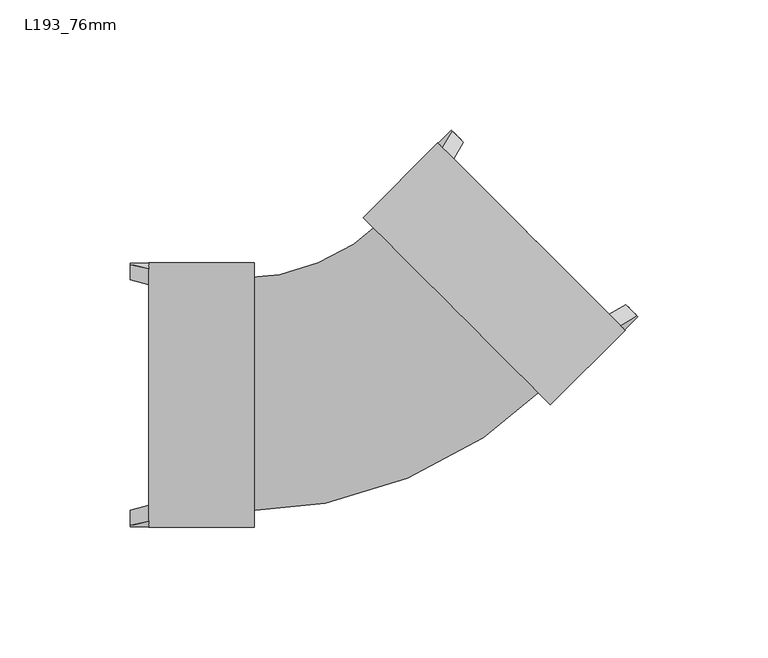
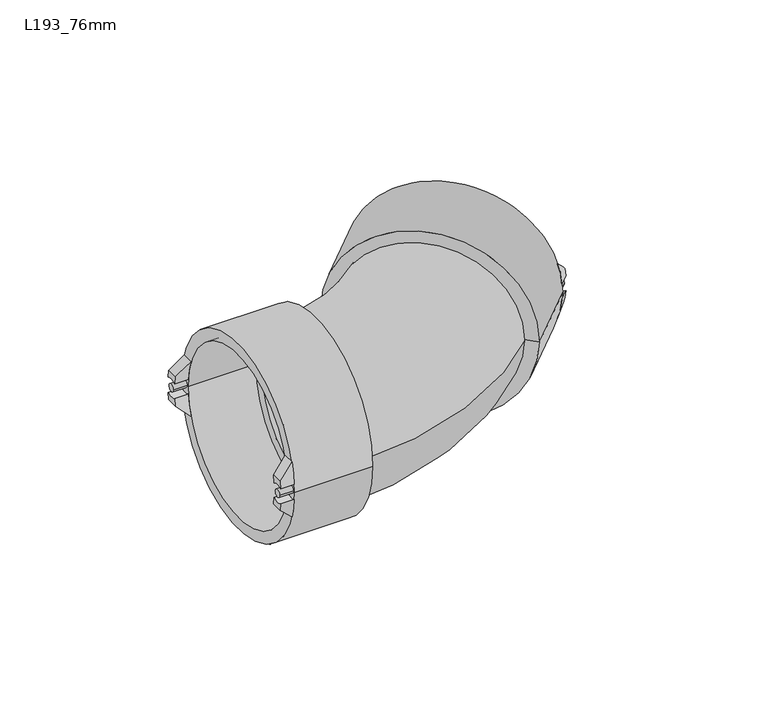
"""IFC4 building model written with IfcOpenShell, lengths in millimetres: pipe fitting geometry, Durapipe_PipeFitting_VulcatheneEnfusion_DoubleSocketSlowBend_L19 : L193_76mm."""

from ifc_helpers import new_model, si_unit, point, frame, frame_2d, origin, place, context, project, spatial, polyline, circle_curve, ellipse_curve, trimmed, segment, composite_curve, outline, extrude, source, transform, mapped, element, save
from ifc_brep_helpers import plane_surface, cylinder_surface, revolved_surface, advanced_brep


def l193_76mm_1ed979b7(model_context):
    return source(origin(), model_context, "Body", "SolidModel", [
        advanced_brep(
        [(34.2041589, 97.3859639, 3.9436356), (30.1029396, 101.4871832, 4.1913461), (30.422905, 101.1672178, 7.94), (34.5822523, 97.0078705, 7.94), (26.5662527, 94.9829538, 15.0), (25.0824815, 96.4667251, 4.1913461), (29.1837008, 92.3655057, 3.9436356), (30.8871268, 90.6620797, 15.0)],
        [
            (0, 1, circle_curve(frame((32.0307126, 99.5594102, 0.0), z_axis=(-0.7071067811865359, -0.7071067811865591, 0.0), x_axis=(0.7071067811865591, -0.7071067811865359, 0.0)), 5.0)),
            (1, 2, circle_curve(frame((65.7950614, 65.7950614, 0.0), z_axis=(0.7071067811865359, 0.7071067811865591, 0.0), x_axis=(0.7071067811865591, -0.7071067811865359, 0.0)), 50.65)),
            (2, 3),
            (3, 0, circle_curve(frame((65.7950614, 65.7950614, 0.0), z_axis=(-0.7071067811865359, -0.7071067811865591, 0.0), x_axis=(0.7071067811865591, -0.7071067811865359, 0.0)), 44.85)),
            (4, 5, circle_curve(frame((60.7746033, 60.7746033, 0.0), z_axis=(-0.7071067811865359, -0.7071067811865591, 0.0), x_axis=(0.7071067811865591, -0.7071067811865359, 0.0)), 50.65)),
            (5, 6, circle_curve(frame((27.0102545, 94.5389521, 0.0), z_axis=(0.7071067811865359, 0.7071067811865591, 0.0), x_axis=(0.7071067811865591, -0.7071067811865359, 0.0)), 5.0)),
            (6, 7, circle_curve(frame((60.7746033, 60.7746033, 0.0), z_axis=(0.7071067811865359, 0.7071067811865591, 0.0), x_axis=(0.7071067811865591, -0.7071067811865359, 0.0)), 44.85)),
            (7, 4),
            (6, 0),
            (3, 7, ellipse_curve(frame((71.441299, 71.441299, 0.0), z_axis=(0.49858558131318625, 0.49858558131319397, 0.7091014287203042), x_axis=(-0.5014104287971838, -0.5014104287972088, 0.705106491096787)), 63.6074133, 44.85)),
            (4, 2, ellipse_curve(frame((71.441299, 71.441299, 0.0), z_axis=(-0.49858558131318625, -0.49858558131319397, -0.7091014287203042), x_axis=(0.5014104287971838, 0.5014104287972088, -0.705106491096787)), 71.8331212, 50.65)),
            (1, 5),
        ],
        [
            plane_surface(frame((31.5867108, 100.003412, 15.0), z_axis=(0.7071067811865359, 0.7071067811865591, 0.0), x_axis=(0.7071067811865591, -0.7071067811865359, 0.0))),
            plane_surface(frame((26.5662527, 94.9829538, 15.0), z_axis=(-0.7071067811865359, -0.7071067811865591, 0.0), x_axis=(-0.7071067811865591, 0.7071067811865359, 0.0))),
            revolved_surface(polyline([(71.26161775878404, 7.834139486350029, 0.0), (135.04845851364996, 71.62098024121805, 0.0)]), (60.7746033, 60.7746033, 0.0), (-0.7071067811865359, -0.7071067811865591, 0.0)),
            cylinder_surface(frame((60.7746033, 60.7746033, 0.0), z_axis=(0.7071067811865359, 0.7071067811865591, 0.0), x_axis=(0.7071067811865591, -0.7071067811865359, 0.0)), 50.65),
            revolved_surface(polyline([(35.566246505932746, 96.02387629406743, 0.0), (30.545788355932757, 91.00341814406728, 0.0)]), (27.0102545, 94.5389521, 0.0), (0.7071067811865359, 0.7071067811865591, 0.0)),
            plane_surface(frame((96.5895617, 24.9596448, 15.0), z_axis=(0.49858558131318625, 0.49858558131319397, 0.7091014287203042), x_axis=(-0.7071067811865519, 0.7071067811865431, 0.0))),
        ],
        [
            (0, [[1, 2, 3, 4]]),
            (1, [[5, 6, 7, 8]]),
            (2, [[-7, 9, -4, 10]]),
            (3, [[-5, 11, -2, 12]]),
            (4, [[-1, -9, -6, -12]]),
            (5, [[-3, -11, -8, -10]]),
        ],
    ),
        advanced_brep(
        [(30.1029396, 101.4871832, -4.1913461), (34.2041589, 97.3859639, -3.9436356), (34.5822523, 97.0078705, -7.94), (30.422905, 101.1672178, -7.94), (25.0824815, 96.4667251, -4.1913461), (26.5662527, 94.9829538, -15.0), (30.8871268, 90.6620797, -15.0), (29.1837008, 92.3655057, -3.9436356)],
        [
            (0, 1, circle_curve(frame((32.0307126, 99.5594102, 0.0), z_axis=(-0.7071067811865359, -0.7071067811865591, 0.0), x_axis=(0.7071067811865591, -0.7071067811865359, 0.0)), 5.0)),
            (1, 2, circle_curve(frame((65.7950614, 65.7950614, 0.0), z_axis=(-0.7071067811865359, -0.7071067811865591, 0.0), x_axis=(0.7071067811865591, -0.7071067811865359, 0.0)), 44.85)),
            (2, 3),
            (3, 0, circle_curve(frame((65.7950614, 65.7950614, 0.0), z_axis=(0.7071067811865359, 0.7071067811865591, 0.0), x_axis=(0.7071067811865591, -0.7071067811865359, 0.0)), 50.65)),
            (4, 5, circle_curve(frame((60.7746033, 60.7746033, 0.0), z_axis=(-0.7071067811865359, -0.7071067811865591, 0.0), x_axis=(0.7071067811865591, -0.7071067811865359, 0.0)), 50.65)),
            (5, 6),
            (6, 7, circle_curve(frame((60.7746033, 60.7746033, 0.0), z_axis=(0.7071067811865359, 0.7071067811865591, 0.0), x_axis=(0.7071067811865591, -0.7071067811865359, 0.0)), 44.85)),
            (7, 4, circle_curve(frame((27.0102545, 94.5389521, 0.0), z_axis=(0.7071067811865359, 0.7071067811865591, 0.0), x_axis=(0.7071067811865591, -0.7071067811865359, 0.0)), 5.0)),
            (6, 2, ellipse_curve(frame((71.441299, 71.441299, 0.0), z_axis=(0.49858558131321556, 0.4985855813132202, -0.7091014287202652), x_axis=(-0.5014104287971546, -0.5014104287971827, -0.7051064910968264)), 63.6074133, 44.85)),
            (1, 7),
            (4, 0),
            (3, 5, ellipse_curve(frame((71.441299, 71.441299, 0.0), z_axis=(-0.49858558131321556, -0.4985855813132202, 0.7091014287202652), x_axis=(0.5014104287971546, 0.5014104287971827, 0.7051064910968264)), 71.8331212, 50.65)),
        ],
        [
            plane_surface(frame((31.5867108, 100.003412, 15.0), z_axis=(0.7071067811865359, 0.7071067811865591, 0.0), x_axis=(0.7071067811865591, -0.7071067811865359, 0.0))),
            plane_surface(frame((26.5662527, 94.9829538, 15.0), z_axis=(-0.7071067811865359, -0.7071067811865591, 0.0), x_axis=(-0.7071067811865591, 0.7071067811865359, 0.0))),
            revolved_surface(polyline([(71.2616177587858, 7.834139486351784, 0.0), (135.0484585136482, 71.62098024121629, 0.0)]), (60.7746033, 60.7746033, 0.0), (-0.7071067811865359, -0.7071067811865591, 0.0)),
            cylinder_surface(frame((60.7746033, 60.7746033, 0.0), z_axis=(0.7071067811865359, 0.7071067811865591, 0.0), x_axis=(0.7071067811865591, -0.7071067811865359, 0.0)), 50.65),
            revolved_surface(polyline([(35.566246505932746, 96.02387629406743, 0.0), (30.545788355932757, 91.00341814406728, 0.0)]), (27.0102545, 94.5389521, 0.0), (0.7071067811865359, 0.7071067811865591, 0.0)),
            plane_surface(frame((101.6100199, 29.9801029, -7.94), z_axis=(0.49858558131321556, 0.4985855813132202, -0.7091014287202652), x_axis=(-0.7071067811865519, 0.7071067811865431, 0.0))),
        ],
        [
            (0, [[1, 2, 3, 4]]),
            (1, [[5, 6, 7, 8]]),
            (2, [[-7, 9, -2, 10]]),
            (3, [[-5, 11, -4, 12]]),
            (4, [[-1, -11, -8, -10]]),
            (5, [[-3, -9, -6, -12]]),
        ],
    ),
        advanced_brep(
        [(101.4871832, 30.1029396, 4.1913461), (97.3859639, 34.2041589, 3.9436356), (97.0078705, 34.5822523, 7.94), (101.1672178, 30.422905, 7.94), (96.4667251, 25.0824815, 4.1913461), (94.9829538, 26.5662527, 15.0), (90.6620797, 30.8871268, 15.0), (92.3655057, 29.1837008, 3.9436356)],
        [
            (0, 1, circle_curve(frame((99.5594102, 32.0307126, 0.0), z_axis=(-0.7071067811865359, -0.7071067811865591, 0.0), x_axis=(0.7071067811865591, -0.7071067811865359, 0.0)), 5.0)),
            (1, 2, circle_curve(frame((65.7950614, 65.7950614, 0.0), z_axis=(-0.7071067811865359, -0.7071067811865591, 0.0), x_axis=(0.7071067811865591, -0.7071067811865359, 0.0)), 44.85)),
            (2, 3),
            (3, 0, circle_curve(frame((65.7950614, 65.7950614, 0.0), z_axis=(0.7071067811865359, 0.7071067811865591, 0.0), x_axis=(0.7071067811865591, -0.7071067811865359, 0.0)), 50.65)),
            (4, 5, circle_curve(frame((60.7746033, 60.7746033, 0.0), z_axis=(-0.7071067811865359, -0.7071067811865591, 0.0), x_axis=(0.7071067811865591, -0.7071067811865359, 0.0)), 50.65)),
            (5, 6),
            (6, 7, circle_curve(frame((60.7746033, 60.7746033, 0.0), z_axis=(0.7071067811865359, 0.7071067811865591, 0.0), x_axis=(0.7071067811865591, -0.7071067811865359, 0.0)), 44.85)),
            (7, 4, circle_curve(frame((94.5389521, 27.0102545, 0.0), z_axis=(0.7071067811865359, 0.7071067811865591, 0.0), x_axis=(0.7071067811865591, -0.7071067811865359, 0.0)), 5.0)),
            (6, 2, ellipse_curve(frame((71.441299, 71.441299, 0.0), z_axis=(0.49858558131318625, 0.49858558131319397, 0.7091014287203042), x_axis=(-0.5014104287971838, -0.5014104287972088, 0.705106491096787)), 63.6074133, 44.85)),
            (1, 7),
            (4, 0),
            (3, 5, ellipse_curve(frame((71.441299, 71.441299, 0.0), z_axis=(-0.49858558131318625, -0.49858558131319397, -0.7091014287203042), x_axis=(0.5014104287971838, 0.5014104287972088, -0.705106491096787)), 71.8331212, 50.65)),
        ],
        [
            plane_surface(frame((31.5867108, 100.003412, 15.0), z_axis=(0.7071067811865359, 0.7071067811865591, 0.0), x_axis=(0.7071067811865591, -0.7071067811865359, 0.0))),
            plane_surface(frame((26.5662527, 94.9829538, 15.0), z_axis=(-0.7071067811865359, -0.7071067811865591, 0.0), x_axis=(-0.7071067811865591, 0.7071067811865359, 0.0))),
            revolved_surface(polyline([(71.26161775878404, 7.834139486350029, 0.0), (135.04845851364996, 71.62098024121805, 0.0)]), (60.7746033, 60.7746033, 0.0), (-0.7071067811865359, -0.7071067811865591, 0.0)),
            cylinder_surface(frame((60.7746033, 60.7746033, 0.0), z_axis=(0.7071067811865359, 0.7071067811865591, 0.0), x_axis=(0.7071067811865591, -0.7071067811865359, 0.0)), 50.65),
            revolved_surface(polyline([(103.09494410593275, 28.495178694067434, 0.0), (98.07448595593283, 23.474720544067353, 0.0)]), (94.5389521, 27.0102545, 0.0), (0.7071067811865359, 0.7071067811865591, 0.0)),
            plane_surface(frame((96.5895617, 24.9596448, 15.0), z_axis=(0.49858558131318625, 0.49858558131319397, 0.7091014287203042), x_axis=(-0.7071067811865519, 0.7071067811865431, 0.0))),
        ],
        [
            (0, [[1, 2, 3, 4]]),
            (1, [[5, 6, 7, 8]]),
            (2, [[-7, 9, -2, 10]]),
            (3, [[-5, 11, -4, 12]]),
            (4, [[-1, -11, -8, -10]]),
            (5, [[-3, -9, -6, -12]]),
        ],
    ),
        advanced_brep(
        [(97.3859639, 34.2041589, -3.9436356), (101.4871832, 30.1029396, -4.1913461), (101.1672178, 30.422905, -7.94), (97.0078705, 34.5822523, -7.94), (94.9829538, 26.5662527, -15.0), (96.4667251, 25.0824815, -4.1913461), (92.3655057, 29.1837008, -3.9436356), (90.6620797, 30.8871268, -15.0)],
        [
            (0, 1, circle_curve(frame((99.5594102, 32.0307126, 0.0), z_axis=(-0.7071067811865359, -0.7071067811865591, 0.0), x_axis=(0.7071067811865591, -0.7071067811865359, 0.0)), 5.0)),
            (1, 2, circle_curve(frame((65.7950614, 65.7950614, 0.0), z_axis=(0.7071067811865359, 0.7071067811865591, 0.0), x_axis=(0.7071067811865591, -0.7071067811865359, 0.0)), 50.65)),
            (2, 3),
            (3, 0, circle_curve(frame((65.7950614, 65.7950614, 0.0), z_axis=(-0.7071067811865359, -0.7071067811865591, 0.0), x_axis=(0.7071067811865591, -0.7071067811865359, 0.0)), 44.85)),
            (4, 5, circle_curve(frame((60.7746033, 60.7746033, 0.0), z_axis=(-0.7071067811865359, -0.7071067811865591, 0.0), x_axis=(0.7071067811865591, -0.7071067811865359, 0.0)), 50.65)),
            (5, 6, circle_curve(frame((94.5389521, 27.0102545, 0.0), z_axis=(0.7071067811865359, 0.7071067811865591, 0.0), x_axis=(0.7071067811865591, -0.7071067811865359, 0.0)), 5.0)),
            (6, 7, circle_curve(frame((60.7746033, 60.7746033, 0.0), z_axis=(0.7071067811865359, 0.7071067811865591, 0.0), x_axis=(0.7071067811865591, -0.7071067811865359, 0.0)), 44.85)),
            (7, 4),
            (6, 0),
            (3, 7, ellipse_curve(frame((71.441299, 71.441299, 0.0), z_axis=(0.49858558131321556, 0.4985855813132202, -0.7091014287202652), x_axis=(-0.5014104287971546, -0.5014104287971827, -0.7051064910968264)), 63.6074133, 44.85)),
            (4, 2, ellipse_curve(frame((71.441299, 71.441299, 0.0), z_axis=(-0.49858558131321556, -0.4985855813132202, 0.7091014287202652), x_axis=(0.5014104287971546, 0.5014104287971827, 0.7051064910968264)), 71.8331212, 50.65)),
            (1, 5),
        ],
        [
            plane_surface(frame((31.5867108, 100.003412, 15.0), z_axis=(0.7071067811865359, 0.7071067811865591, 0.0), x_axis=(0.7071067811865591, -0.7071067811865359, 0.0))),
            plane_surface(frame((26.5662527, 94.9829538, 15.0), z_axis=(-0.7071067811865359, -0.7071067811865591, 0.0), x_axis=(-0.7071067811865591, 0.7071067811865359, 0.0))),
            revolved_surface(polyline([(71.2616177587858, 7.834139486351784, 0.0), (135.0484585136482, 71.62098024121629, 0.0)]), (60.7746033, 60.7746033, 0.0), (-0.7071067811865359, -0.7071067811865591, 0.0)),
            cylinder_surface(frame((60.7746033, 60.7746033, 0.0), z_axis=(0.7071067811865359, 0.7071067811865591, 0.0), x_axis=(0.7071067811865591, -0.7071067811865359, 0.0)), 50.65),
            revolved_surface(polyline([(103.09494410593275, 28.495178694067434, 0.0), (98.07448595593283, 23.474720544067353, 0.0)]), (94.5389521, 27.0102545, 0.0), (0.7071067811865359, 0.7071067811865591, 0.0)),
            plane_surface(frame((101.6100199, 29.9801029, -7.94), z_axis=(0.49858558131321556, 0.4985855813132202, -0.7091014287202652), x_axis=(-0.7071067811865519, 0.7071067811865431, 0.0))),
        ],
        [
            (0, [[1, 2, 3, 4]]),
            (1, [[5, 6, 7, 8]]),
            (2, [[-7, 9, -4, 10]]),
            (3, [[-5, 11, -2, 12]]),
            (4, [[-1, -9, -6, -12]]),
            (5, [[-3, -11, -8, -10]]),
        ],
    ),
        extrude(outline(composite_curve([segment(trimmed(circle_curve(frame_2d((0.0, -2.0)), 2.0), [point((0.0, -4.0))], [point((0.0, 0.0))], False, "CARTESIAN"), True, "CONTINUOUS"), segment(trimmed(circle_curve(frame_2d((0.0, -2.0)), 2.0), [point((0.0, 0.0))], [point((0.0, -4.0))], False, "CARTESIAN"), True, "CONTINUOUS")], self_intersect=False)), frame((28.424468, 93.1247385, 0.0), z_axis=(0.7071067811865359, 0.7071067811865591, 0.0), x_axis=(0.0, 0.0, 1.0)), (0.0, 0.0, 1.0), 7.1),
        extrude(outline(composite_curve([segment(trimmed(circle_curve(frame_2d((0.0, 93.5)), 2.0), [point((0.0, 91.5))], [point((0.0, 95.5))], False, "CARTESIAN"), True, "CONTINUOUS"), segment(trimmed(circle_curve(frame_2d((0.0, 93.5)), 2.0), [point((0.0, 95.5))], [point((0.0, 91.5))], False, "CARTESIAN"), True, "CONTINUOUS")], self_intersect=False)), frame((28.424468, 93.1247385, 0.0), z_axis=(0.7071067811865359, 0.7071067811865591, 0.0), x_axis=(0.0, 0.0, 1.0)), (0.0, 0.0, 1.0), 7.1),
        advanced_brep(
        [(8.2365694, 63.8151624, 0.0), (63.8151624, 8.2365694, 0.0), (67.633539, 4.4181928, 0.0), (4.4181928, 67.633539, 0.0), (4.3474821, 59.9260751, 0.0), (59.9260751, 4.3474821, 0.0), (-3.7842459, 68.0578031, 0.0), (68.0578031, -3.7842459, 0.0), (24.8535788, 96.6956277, 0.0), (96.6956277, 24.8535788, 0.0), (29.1669301, 92.3822764, 0.0), (92.3822764, 29.1669301, 0.0)],
        [
            (0, 1, circle_curve(frame((36.0258659, 36.0258659, 0.0), z_axis=(-0.7071067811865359, -0.7071067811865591, 0.0), x_axis=(0.7071067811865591, -0.7071067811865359, 0.0)), 39.3)),
            (1, 2),
            (2, 3, circle_curve(frame((36.0258659, 36.0258659, 0.0), z_axis=(0.7071067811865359, 0.7071067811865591, 0.0), x_axis=(0.7071067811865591, -0.7071067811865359, 0.0)), 44.7)),
            (3, 0),
            (1, 0, circle_curve(frame((36.0258659, 36.0258659, 0.0), z_axis=(-0.7071067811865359, -0.7071067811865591, 0.0), x_axis=(0.7071067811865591, -0.7071067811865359, 0.0)), 39.3)),
            (3, 2, circle_curve(frame((36.0258659, 36.0258659, 0.0), z_axis=(0.7071067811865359, 0.7071067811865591, 0.0), x_axis=(0.7071067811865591, -0.7071067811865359, 0.0)), 44.7)),
            (4, 5, circle_curve(frame((32.1367786, 32.1367786, 0.0), z_axis=(-0.7071067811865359, -0.7071067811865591, 0.0), x_axis=(0.7071067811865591, -0.7071067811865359, 0.0)), 39.3)),
            (5, 1),
            (0, 4),
            (5, 4, circle_curve(frame((32.1367786, 32.1367786, 0.0), z_axis=(-0.7071067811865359, -0.7071067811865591, 0.0), x_axis=(0.7071067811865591, -0.7071067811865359, 0.0)), 39.3)),
            (6, 7, circle_curve(frame((32.1367786, 32.1367786, 0.0), z_axis=(-0.7071067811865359, -0.7071067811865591, 0.0), x_axis=(0.7071067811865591, -0.7071067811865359, 0.0)), 50.8)),
            (7, 5),
            (4, 6),
            (7, 6, circle_curve(frame((32.1367786, 32.1367786, 0.0), z_axis=(-0.7071067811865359, -0.7071067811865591, 0.0), x_axis=(0.7071067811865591, -0.7071067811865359, 0.0)), 50.8)),
            (8, 9, circle_curve(frame((60.7746033, 60.7746033, 0.0), z_axis=(-0.7071067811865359, -0.7071067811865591, 0.0), x_axis=(0.7071067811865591, -0.7071067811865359, 0.0)), 50.8)),
            (9, 7),
            (6, 8),
            (9, 8, circle_curve(frame((60.7746033, 60.7746033, 0.0), z_axis=(-0.7071067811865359, -0.7071067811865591, 0.0), x_axis=(0.7071067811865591, -0.7071067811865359, 0.0)), 50.8)),
            (10, 11, circle_curve(frame((60.7746033, 60.7746033, 0.0), z_axis=(-0.7071067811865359, -0.7071067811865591, 0.0), x_axis=(0.7071067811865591, -0.7071067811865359, 0.0)), 44.7)),
            (11, 9),
            (8, 10),
            (11, 10, circle_curve(frame((60.7746033, 60.7746033, 0.0), z_axis=(-0.7071067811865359, -0.7071067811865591, 0.0), x_axis=(0.7071067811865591, -0.7071067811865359, 0.0)), 44.7)),
            (2, 11),
            (10, 3),
        ],
        [
            plane_surface(frame((36.0258659, 36.0258659, 0.0), z_axis=(0.7071067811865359, 0.7071067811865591, 0.0), x_axis=(0.7071067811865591, -0.7071067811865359, 0.0))),
            revolved_surface(polyline([(63.81516240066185, 8.23656939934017, 0.0), (59.92607510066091, 4.347482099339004, 0.0)]), (1838.4287645, 1838.4287645, 0.0), (0.7071067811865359, 0.7071067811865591, 0.0)),
            plane_surface(frame((32.1367786, 32.1367786, 0.0), z_axis=(-0.7071067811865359, -0.7071067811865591, 0.0), x_axis=(0.7071067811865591, -0.7071067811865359, 0.0))),
            cylinder_surface(frame((1838.4287645, 1838.4287645, 0.0), z_axis=(0.7071067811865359, 0.7071067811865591, 0.0), x_axis=(0.7071067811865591, -0.7071067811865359, 0.0)), 50.8),
            plane_surface(frame((60.7746033, 60.7746033, 0.0), z_axis=(0.7071067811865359, 0.7071067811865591, 0.0), x_axis=(0.7071067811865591, -0.7071067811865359, 0.0))),
            revolved_surface(polyline([(92.3822764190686, 29.16693018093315, 0.0), (67.6335390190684, 4.418192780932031, 0.0)]), (1838.4287645, 1838.4287645, 0.0), (0.7071067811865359, 0.7071067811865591, 0.0)),
        ],
        [
            (0, [[1, 2, 3, 4]]),
            (0, [[5, -4, 6, -2]]),
            (1, [[7, 8, -1, 9]]),
            (1, [[10, -9, -5, -8]]),
            (2, [[11, 12, -7, 13]]),
            (2, [[14, -13, -10, -12]]),
            (3, [[15, 16, -11, 17]]),
            (3, [[18, -17, -14, -16]]),
            (4, [[19, 20, -15, 21]]),
            (4, [[22, -21, -18, -20]]),
            (5, [[-3, 23, -19, 24]]),
            (5, [[-6, -24, -22, -23]]),
        ],
    ),
        advanced_brep(
        [(-93.0482682, 44.6762827, -3.9436356), (-93.0482682, 50.4762827, -4.1913461), (-93.0482682, 50.0237833, -7.94), (-93.0482682, 44.1415779, -7.94), (-85.9482682, 48.3779133, -15.0), (-85.9482682, 50.4762827, -4.1913461), (-85.9482682, 44.6762827, -3.9436356), (-85.9482682, 42.2672746, -15.0)],
        [
            (0, 1, circle_curve(frame((-93.0482682, 47.75, 0.0), z_axis=(1.0, 0.0, 0.0), x_axis=(0.0, -1.0, 0.0)), 5.0)),
            (1, 2, circle_curve(frame((-93.0482682, 0.0, 0.0), z_axis=(-1.0, 0.0, 0.0), x_axis=(0.0, -1.0, 0.0)), 50.65)),
            (2, 3),
            (3, 0, circle_curve(frame((-93.0482682, 0.0, 0.0), z_axis=(1.0, 0.0, 0.0), x_axis=(0.0, -1.0, 0.0)), 44.85)),
            (4, 5, circle_curve(frame((-85.9482682, 0.0, 0.0), z_axis=(1.0, 0.0, 0.0), x_axis=(0.0, -1.0, 0.0)), 50.65)),
            (5, 6, circle_curve(frame((-85.9482682, 47.75, 0.0), z_axis=(-1.0, 0.0, 0.0), x_axis=(0.0, -1.0, 0.0)), 5.0)),
            (6, 7, circle_curve(frame((-85.9482682, 0.0, 0.0), z_axis=(-1.0, 0.0, 0.0), x_axis=(0.0, -1.0, 0.0)), 44.85)),
            (7, 4),
            (6, 0),
            (3, 7, ellipse_curve(frame((-101.033254, 0.0, 0.0), z_axis=(-0.705106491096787, 0.0, -0.7091014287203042), x_axis=(0.7091014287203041, 0.0, -0.705106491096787)), 63.6074133, 44.85)),
            (4, 2, ellipse_curve(frame((-101.033254, 0.0, 0.0), z_axis=(0.705106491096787, 0.0, 0.7091014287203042), x_axis=(-0.7091014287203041, 0.0, 0.705106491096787)), 71.8331212, 50.65)),
            (1, 5),
        ],
        [
            plane_surface(frame((-93.0482682, 48.3779133, -15.0), z_axis=(-1.0, 0.0, 0.0), x_axis=(0.0, -1.0, 0.0))),
            plane_surface(frame((-85.9482682, 48.3779133, -15.0), z_axis=(1.0, 0.0, 0.0), x_axis=(0.0, 1.0, 0.0))),
            revolved_surface(polyline([(-55.92914635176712, -44.85, 0.0), (-146.13736164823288, -44.85, 0.0)]), (-85.9482682, 0.0, 0.0), (1.0, 0.0, 0.0)),
            cylinder_surface(frame((-85.9482682, 0.0, 0.0), z_axis=(-1.0, 0.0, 0.0), x_axis=(0.0, -1.0, 0.0)), 50.65),
            revolved_surface(polyline([(-93.0482682, 42.75, 0.0), (-85.9482682, 42.75, 0.0)]), (-85.9482682, 47.75, 0.0), (-1.0, 0.0, 0.0)),
            plane_surface(frame((-85.9482682, -50.65, -15.0), z_axis=(-0.705106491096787, 0.0, -0.7091014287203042), x_axis=(0.0, 1.0, 0.0))),
        ],
        [
            (0, [[1, 2, 3, 4]]),
            (1, [[5, 6, 7, 8]]),
            (2, [[-7, 9, -4, 10]]),
            (3, [[-5, 11, -2, 12]]),
            (4, [[-1, -9, -6, -12]]),
            (5, [[-3, -11, -8, -10]]),
        ],
    ),
        advanced_brep(
        [(-93.0482682, 50.4762827, 4.1913461), (-93.0482682, 44.6762827, 3.9436356), (-93.0482682, 44.1415779, 7.94), (-93.0482682, 50.0237833, 7.94), (-85.9482682, 50.4762827, 4.1913461), (-85.9482682, 48.3779133, 15.0), (-85.9482682, 42.2672746, 15.0), (-85.9482682, 44.6762827, 3.9436356)],
        [
            (0, 1, circle_curve(frame((-93.0482682, 47.75, 0.0), z_axis=(1.0, 0.0, 0.0), x_axis=(0.0, -1.0, 0.0)), 5.0)),
            (1, 2, circle_curve(frame((-93.0482682, 0.0, 0.0), z_axis=(1.0, 0.0, 0.0), x_axis=(0.0, -1.0, 0.0)), 44.85)),
            (2, 3),
            (3, 0, circle_curve(frame((-93.0482682, 0.0, 0.0), z_axis=(-1.0, 0.0, 0.0), x_axis=(0.0, -1.0, 0.0)), 50.65)),
            (4, 5, circle_curve(frame((-85.9482682, 0.0, 0.0), z_axis=(1.0, 0.0, 0.0), x_axis=(0.0, -1.0, 0.0)), 50.65)),
            (5, 6),
            (6, 7, circle_curve(frame((-85.9482682, 0.0, 0.0), z_axis=(-1.0, 0.0, 0.0), x_axis=(0.0, -1.0, 0.0)), 44.85)),
            (7, 4, circle_curve(frame((-85.9482682, 47.75, 0.0), z_axis=(-1.0, 0.0, 0.0), x_axis=(0.0, -1.0, 0.0)), 5.0)),
            (6, 2, ellipse_curve(frame((-101.033254, 0.0, 0.0), z_axis=(-0.7051064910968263, 0.0, 0.7091014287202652), x_axis=(0.7091014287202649, 0.0, 0.7051064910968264)), 63.6074133, 44.85)),
            (1, 7),
            (4, 0),
            (3, 5, ellipse_curve(frame((-101.033254, 0.0, 0.0), z_axis=(0.7051064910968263, 0.0, -0.7091014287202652), x_axis=(-0.7091014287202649, 0.0, -0.7051064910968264)), 71.8331212, 50.65)),
        ],
        [
            plane_surface(frame((-93.0482682, 48.3779133, -15.0), z_axis=(-1.0, 0.0, 0.0), x_axis=(0.0, -1.0, 0.0))),
            plane_surface(frame((-85.9482682, 48.3779133, -15.0), z_axis=(1.0, 0.0, 0.0), x_axis=(0.0, 1.0, 0.0))),
            revolved_surface(polyline([(-55.92914635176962, -44.85, 0.0), (-146.13736164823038, -44.85, 0.0)]), (-85.9482682, 0.0, 0.0), (1.0, 0.0, 0.0)),
            cylinder_surface(frame((-85.9482682, 0.0, 0.0), z_axis=(-1.0, 0.0, 0.0), x_axis=(0.0, -1.0, 0.0)), 50.65),
            revolved_surface(polyline([(-93.0482682, 42.75, 0.0), (-85.9482682, 42.75, 0.0)]), (-85.9482682, 47.75, 0.0), (-1.0, 0.0, 0.0)),
            plane_surface(frame((-93.0482682, -50.65, 7.94), z_axis=(-0.7051064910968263, 0.0, 0.7091014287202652), x_axis=(0.0, 1.0, 0.0))),
        ],
        [
            (0, [[1, 2, 3, 4]]),
            (1, [[5, 6, 7, 8]]),
            (2, [[-7, 9, -2, 10]]),
            (3, [[-5, 11, -4, 12]]),
            (4, [[-1, -11, -8, -10]]),
            (5, [[-3, -9, -6, -12]]),
        ],
    ),
        advanced_brep(
        [(-93.0482682, -50.4762827, -4.1913461), (-93.0482682, -44.6762827, -3.9436356), (-93.0482682, -44.1415779, -7.94), (-93.0482682, -50.0237833, -7.94), (-85.9482682, -50.4762827, -4.1913461), (-85.9482682, -48.3779133, -15.0), (-85.9482682, -42.2672746, -15.0), (-85.9482682, -44.6762827, -3.9436356)],
        [
            (0, 1, circle_curve(frame((-93.0482682, -47.75, 0.0), z_axis=(1.0, 0.0, 0.0), x_axis=(0.0, -1.0, 0.0)), 5.0)),
            (1, 2, circle_curve(frame((-93.0482682, 0.0, 0.0), z_axis=(1.0, 0.0, 0.0), x_axis=(0.0, -1.0, 0.0)), 44.85)),
            (2, 3),
            (3, 0, circle_curve(frame((-93.0482682, 0.0, 0.0), z_axis=(-1.0, 0.0, 0.0), x_axis=(0.0, -1.0, 0.0)), 50.65)),
            (4, 5, circle_curve(frame((-85.9482682, 0.0, 0.0), z_axis=(1.0, 0.0, 0.0), x_axis=(0.0, -1.0, 0.0)), 50.65)),
            (5, 6),
            (6, 7, circle_curve(frame((-85.9482682, 0.0, 0.0), z_axis=(-1.0, 0.0, 0.0), x_axis=(0.0, -1.0, 0.0)), 44.85)),
            (7, 4, circle_curve(frame((-85.9482682, -47.75, 0.0), z_axis=(-1.0, 0.0, 0.0), x_axis=(0.0, -1.0, 0.0)), 5.0)),
            (6, 2, ellipse_curve(frame((-101.033254, 0.0, 0.0), z_axis=(-0.705106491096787, 0.0, -0.7091014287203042), x_axis=(0.7091014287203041, 0.0, -0.705106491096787)), 63.6074133, 44.85)),
            (1, 7),
            (4, 0),
            (3, 5, ellipse_curve(frame((-101.033254, 0.0, 0.0), z_axis=(0.705106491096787, 0.0, 0.7091014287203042), x_axis=(-0.7091014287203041, 0.0, 0.705106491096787)), 71.8331212, 50.65)),
        ],
        [
            plane_surface(frame((-93.0482682, 48.3779133, -15.0), z_axis=(-1.0, 0.0, 0.0), x_axis=(0.0, -1.0, 0.0))),
            plane_surface(frame((-85.9482682, 48.3779133, -15.0), z_axis=(1.0, 0.0, 0.0), x_axis=(0.0, 1.0, 0.0))),
            revolved_surface(polyline([(-55.92914635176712, -44.85, 0.0), (-146.13736164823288, -44.85, 0.0)]), (-85.9482682, 0.0, 0.0), (1.0, 0.0, 0.0)),
            cylinder_surface(frame((-85.9482682, 0.0, 0.0), z_axis=(-1.0, 0.0, 0.0), x_axis=(0.0, -1.0, 0.0)), 50.65),
            revolved_surface(polyline([(-93.0482682, -52.75, 0.0), (-85.9482682, -52.75, 0.0)]), (-85.9482682, -47.75, 0.0), (-1.0, 0.0, 0.0)),
            plane_surface(frame((-85.9482682, -50.65, -15.0), z_axis=(-0.705106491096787, 0.0, -0.7091014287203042), x_axis=(0.0, 1.0, 0.0))),
        ],
        [
            (0, [[1, 2, 3, 4]]),
            (1, [[5, 6, 7, 8]]),
            (2, [[-7, 9, -2, 10]]),
            (3, [[-5, 11, -4, 12]]),
            (4, [[-1, -11, -8, -10]]),
            (5, [[-3, -9, -6, -12]]),
        ],
    ),
        advanced_brep(
        [(-93.0482682, -44.6762827, 3.9436356), (-93.0482682, -50.4762827, 4.1913461), (-93.0482682, -50.0237833, 7.94), (-93.0482682, -44.1415779, 7.94), (-85.9482682, -48.3779133, 15.0), (-85.9482682, -50.4762827, 4.1913461), (-85.9482682, -44.6762827, 3.9436356), (-85.9482682, -42.2672746, 15.0)],
        [
            (0, 1, circle_curve(frame((-93.0482682, -47.75, 0.0), z_axis=(1.0, 0.0, 0.0), x_axis=(0.0, -1.0, 0.0)), 5.0)),
            (1, 2, circle_curve(frame((-93.0482682, 0.0, 0.0), z_axis=(-1.0, 0.0, 0.0), x_axis=(0.0, -1.0, 0.0)), 50.65)),
            (2, 3),
            (3, 0, circle_curve(frame((-93.0482682, 0.0, 0.0), z_axis=(1.0, 0.0, 0.0), x_axis=(0.0, -1.0, 0.0)), 44.85)),
            (4, 5, circle_curve(frame((-85.9482682, 0.0, 0.0), z_axis=(1.0, 0.0, 0.0), x_axis=(0.0, -1.0, 0.0)), 50.65)),
            (5, 6, circle_curve(frame((-85.9482682, -47.75, 0.0), z_axis=(-1.0, 0.0, 0.0), x_axis=(0.0, -1.0, 0.0)), 5.0)),
            (6, 7, circle_curve(frame((-85.9482682, 0.0, 0.0), z_axis=(-1.0, 0.0, 0.0), x_axis=(0.0, -1.0, 0.0)), 44.85)),
            (7, 4),
            (6, 0),
            (3, 7, ellipse_curve(frame((-101.033254, 0.0, 0.0), z_axis=(-0.7051064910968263, 0.0, 0.7091014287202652), x_axis=(0.7091014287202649, 0.0, 0.7051064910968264)), 63.6074133, 44.85)),
            (4, 2, ellipse_curve(frame((-101.033254, 0.0, 0.0), z_axis=(0.7051064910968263, 0.0, -0.7091014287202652), x_axis=(-0.7091014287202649, 0.0, -0.7051064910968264)), 71.8331212, 50.65)),
            (1, 5),
        ],
        [
            plane_surface(frame((-93.0482682, 48.3779133, -15.0), z_axis=(-1.0, 0.0, 0.0), x_axis=(0.0, -1.0, 0.0))),
            plane_surface(frame((-85.9482682, 48.3779133, -15.0), z_axis=(1.0, 0.0, 0.0), x_axis=(0.0, 1.0, 0.0))),
            revolved_surface(polyline([(-55.92914635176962, -44.85, 0.0), (-146.13736164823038, -44.85, 0.0)]), (-85.9482682, 0.0, 0.0), (1.0, 0.0, 0.0)),
            cylinder_surface(frame((-85.9482682, 0.0, 0.0), z_axis=(-1.0, 0.0, 0.0), x_axis=(0.0, -1.0, 0.0)), 50.65),
            revolved_surface(polyline([(-93.0482682, -52.75, 0.0), (-85.9482682, -52.75, 0.0)]), (-85.9482682, -47.75, 0.0), (-1.0, 0.0, 0.0)),
            plane_surface(frame((-93.0482682, -50.65, 7.94), z_axis=(-0.7051064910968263, 0.0, 0.7091014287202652), x_axis=(0.0, 1.0, 0.0))),
        ],
        [
            (0, [[1, 2, 3, 4]]),
            (1, [[5, 6, 7, 8]]),
            (2, [[-7, 9, -4, 10]]),
            (3, [[-5, 11, -2, 12]]),
            (4, [[-1, -9, -6, -12]]),
            (5, [[-3, -11, -8, -10]]),
        ],
    ),
        extrude(outline(composite_curve([segment(trimmed(circle_curve(frame_2d((47.75, 0.0)), 2.0), [point((49.75, 0.0))], [point((45.75, 0.0))], False, "CARTESIAN"), True, "CONTINUOUS"), segment(trimmed(circle_curve(frame_2d((47.75, 0.0)), 2.0), [point((45.75, 0.0))], [point((49.75, 0.0))], False, "CARTESIAN"), True, "CONTINUOUS")], self_intersect=False)), frame((-93.0482682, 0.0, 0.0), z_axis=(1.0, 0.0, 0.0), x_axis=(0.0, 1.0, 0.0)), (0.0, 0.0, 1.0), 7.1),
        extrude(outline(composite_curve([segment(trimmed(circle_curve(frame_2d((-47.75, 0.0)), 2.0), [point((-45.75, 0.0))], [point((-49.75, 0.0))], False, "CARTESIAN"), True, "CONTINUOUS"), segment(trimmed(circle_curve(frame_2d((-47.75, 0.0)), 2.0), [point((-49.75, 0.0))], [point((-45.75, 0.0))], False, "CARTESIAN"), True, "CONTINUOUS")], self_intersect=False)), frame((-93.0482682, 0.0, 0.0), z_axis=(1.0, 0.0, 0.0), x_axis=(0.0, 1.0, 0.0)), (0.0, 0.0, 1.0), 7.1),
        advanced_brep(
        [(-50.9482682, 39.3, 0.0), (-50.9482682, -39.3, 0.0), (-50.9482682, -44.7, 0.0), (-50.9482682, 44.7, 0.0), (-45.4482682, 39.3, 0.0), (-45.4482682, -39.3, 0.0), (-45.4482682, 50.8, 0.0), (-45.4482682, -50.8, 0.0), (-85.9482682, 50.8, 0.0), (-85.9482682, -50.8, 0.0), (-85.9482682, 44.7, 0.0), (-85.9482682, -44.7, 0.0)],
        [
            (0, 1, circle_curve(frame((-50.9482682, 0.0, 0.0), z_axis=(1.0, 0.0, 0.0), x_axis=(0.0, -1.0, 0.0)), 39.3)),
            (1, 2),
            (2, 3, circle_curve(frame((-50.9482682, 0.0, 0.0), z_axis=(-1.0, 0.0, 0.0), x_axis=(0.0, -1.0, 0.0)), 44.7)),
            (3, 0),
            (1, 0, circle_curve(frame((-50.9482682, 0.0, 0.0), z_axis=(1.0, 0.0, 0.0), x_axis=(0.0, -1.0, 0.0)), 39.3)),
            (3, 2, circle_curve(frame((-50.9482682, 0.0, 0.0), z_axis=(-1.0, 0.0, 0.0), x_axis=(0.0, -1.0, 0.0)), 44.7)),
            (4, 5, circle_curve(frame((-45.4482682, 0.0, 0.0), z_axis=(1.0, 0.0, 0.0), x_axis=(0.0, -1.0, 0.0)), 39.3)),
            (5, 1),
            (0, 4),
            (5, 4, circle_curve(frame((-45.4482682, 0.0, 0.0), z_axis=(1.0, 0.0, 0.0), x_axis=(0.0, -1.0, 0.0)), 39.3)),
            (6, 7, circle_curve(frame((-45.4482682, 0.0, 0.0), z_axis=(1.0, 0.0, 0.0), x_axis=(0.0, -1.0, 0.0)), 50.8)),
            (7, 5),
            (4, 6),
            (7, 6, circle_curve(frame((-45.4482682, 0.0, 0.0), z_axis=(1.0, 0.0, 0.0), x_axis=(0.0, -1.0, 0.0)), 50.8)),
            (8, 9, circle_curve(frame((-85.9482682, 0.0, 0.0), z_axis=(1.0, 0.0, 0.0), x_axis=(0.0, -1.0, 0.0)), 50.8)),
            (9, 7),
            (6, 8),
            (9, 8, circle_curve(frame((-85.9482682, 0.0, 0.0), z_axis=(1.0, 0.0, 0.0), x_axis=(0.0, -1.0, 0.0)), 50.8)),
            (10, 11, circle_curve(frame((-85.9482682, 0.0, 0.0), z_axis=(1.0, 0.0, 0.0), x_axis=(0.0, -1.0, 0.0)), 44.7)),
            (11, 9),
            (8, 10),
            (11, 10, circle_curve(frame((-85.9482682, 0.0, 0.0), z_axis=(1.0, 0.0, 0.0), x_axis=(0.0, -1.0, 0.0)), 44.7)),
            (2, 11),
            (10, 3),
        ],
        [
            plane_surface(frame((-50.9482682, 0.0, 0.0), z_axis=(-1.0, 0.0, 0.0), x_axis=(0.0, -1.0, 0.0))),
            revolved_surface(polyline([(-50.9482681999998, -39.3, 0.0), (-45.4482681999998, -39.3, 0.0)]), (-2599.9308922, 0.0, 0.0), (-1.0, 0.0, 0.0)),
            plane_surface(frame((-45.4482682, 0.0, 0.0), z_axis=(1.0, 0.0, 0.0), x_axis=(0.0, -1.0, 0.0))),
            cylinder_surface(frame((-2599.9308922, 0.0, 0.0), z_axis=(-1.0, 0.0, 0.0), x_axis=(0.0, -1.0, 0.0)), 50.8),
            plane_surface(frame((-85.9482682, 0.0, 0.0), z_axis=(-1.0, 0.0, 0.0), x_axis=(0.0, -1.0, 0.0))),
            revolved_surface(polyline([(-85.9482681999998, -44.7, 0.0), (-50.9482681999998, -44.7, 0.0)]), (-2599.9308922, 0.0, 0.0), (-1.0, 0.0, 0.0)),
        ],
        [
            (0, [[1, 2, 3, 4]]),
            (0, [[5, -4, 6, -2]]),
            (1, [[7, 8, -1, 9]]),
            (1, [[10, -9, -5, -8]]),
            (2, [[11, 12, -7, 13]]),
            (2, [[14, -13, -10, -12]]),
            (3, [[15, 16, -11, 17]]),
            (3, [[18, -17, -14, -16]]),
            (4, [[19, 20, -15, 21]]),
            (4, [[22, -21, -18, -20]]),
            (5, [[-3, 23, -19, 24]]),
            (5, [[-6, -24, -22, -23]]),
        ],
    ),
        advanced_brep(
        [(-50.9482682, -44.7, 0.0), (-50.9482682, 44.7, 0.0), (-50.9482682, -39.3, 0.0), (-50.9482682, 39.3, 0.0), (67.633539, 4.4181928, 0.0), (4.4181928, 67.633539, 0.0), (63.8151624, 8.2365694, 0.0), (8.2365694, 63.8151624, 0.0)],
        [
            (0, 1, circle_curve(frame((-50.9482682, 0.0, 0.0), z_axis=(-1.0, 0.0, 0.0), x_axis=(0.0, 1.0, 0.0)), 44.7)),
            (1, 0, circle_curve(frame((-50.9482682, 0.0, 0.0), z_axis=(-1.0, 0.0, 0.0), x_axis=(0.0, 1.0, 0.0)), 44.7)),
            (2, 3, circle_curve(frame((-50.9482682, 0.0, 0.0), z_axis=(1.0, 0.0, 0.0), x_axis=(0.0, 1.0, 0.0)), 39.3)),
            (3, 2, circle_curve(frame((-50.9482682, 0.0, 0.0), z_axis=(1.0, 0.0, 0.0), x_axis=(0.0, 1.0, 0.0)), 39.3)),
            (4, 5, circle_curve(frame((36.0258659, 36.0258659, 0.0), z_axis=(0.7071067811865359, 0.7071067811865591, 0.0), x_axis=(-0.7071067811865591, 0.7071067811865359, 0.0)), 44.7)),
            (5, 4, circle_curve(frame((36.0258659, 36.0258659, 0.0), z_axis=(0.7071067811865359, 0.7071067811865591, 0.0), x_axis=(-0.7071067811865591, 0.7071067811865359, 0.0)), 44.7)),
            (6, 7, circle_curve(frame((36.0258659, 36.0258659, 0.0), z_axis=(-0.7071067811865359, -0.7071067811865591, 0.0), x_axis=(-0.7071067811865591, 0.7071067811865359, 0.0)), 39.3)),
            (7, 6, circle_curve(frame((36.0258659, 36.0258659, 0.0), z_axis=(-0.7071067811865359, -0.7071067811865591, 0.0), x_axis=(-0.7071067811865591, 0.7071067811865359, 0.0)), 39.3)),
            (7, 3, circle_curve(frame((-50.9482682, 123.0, 0.0), z_axis=(0.0, 0.0, -1.0), x_axis=(0.0, -1.0, 0.0)), 83.7)),
            (2, 6, circle_curve(frame((-50.9482682, 123.0, 0.0), z_axis=(0.0, 0.0, 1.0), x_axis=(0.0, -1.0, 0.0)), 162.3)),
            (5, 1, circle_curve(frame((-50.9482682, 123.0, 0.0), z_axis=(0.0, 0.0, -1.0), x_axis=(0.0, -1.0, 0.0)), 78.3)),
            (0, 4, circle_curve(frame((-50.9482682, 123.0, 0.0), z_axis=(0.0, 0.0, 1.0), x_axis=(0.0, -1.0, 0.0)), 167.7)),
        ],
        [
            plane_surface(frame((-50.9482682, 0.0, 0.0), z_axis=(-1.0, 0.0, 0.0), x_axis=(0.0, 0.0, 1.0))),
            plane_surface(frame((36.0258659, 36.0258659, 0.0), z_axis=(0.7071067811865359, 0.7071067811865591, 0.0), x_axis=(0.0, 0.0, 1.0))),
            revolved_surface(trimmed(ellipse_curve(frame((-50.9482682, 0.0, 0.0), z_axis=(1.0, 0.0, 0.0), x_axis=(0.0, 1.0, 0.0)), 39.3, 39.3), [point((-50.9482682, -39.3, 0.0))], [point((-50.9482682, 39.3, 0.0))], True, "CARTESIAN"), (-50.9482682, 123.0, 0.0), (0.0, 0.0, 1.0)),
            revolved_surface(trimmed(ellipse_curve(frame((-50.9482682, 0.0, 0.0), z_axis=(1.0, 0.0, 0.0), x_axis=(0.0, 1.0, 0.0)), 39.3, 39.3), [point((-50.9482682, 39.3, 0.0))], [point((-50.9482682, -39.3, 0.0))], True, "CARTESIAN"), (-50.9482682, 123.0, 0.0), (0.0, 0.0, 1.0)),
            revolved_surface(trimmed(ellipse_curve(frame((-50.9482682, 0.0, 0.0), z_axis=(-1.0, 0.0, 0.0), x_axis=(0.0, 1.0, 0.0)), 44.7, 44.7), [point((-50.9482682, -44.7, 0.0))], [point((-50.9482682, 44.7, 0.0))], True, "CARTESIAN"), (-50.9482682, 123.0, 0.0), (0.0, 0.0, 1.0)),
            revolved_surface(trimmed(ellipse_curve(frame((-50.9482682, 0.0, 0.0), z_axis=(-1.0, 0.0, 0.0), x_axis=(0.0, 1.0, 0.0)), 44.7, 44.7), [point((-50.9482682, 44.7, 0.0))], [point((-50.9482682, -44.7, 0.0))], True, "CARTESIAN"), (-50.9482682, 123.0, 0.0), (0.0, 0.0, 1.0)),
        ],
        [
            (0, [[1, 2], [3, 4]]),
            (1, [[5, 6], [7, 8]]),
            (2, [[9, -3, 10, -8]]),
            (3, [[-10, -4, -9, -7]]),
            (4, [[11, -1, 12, -6]]),
            (5, [[-12, -2, -11, -5]]),
        ],
    ),
    ])


if __name__ == "__main__":
    model = new_model("IFC4")
    model_context = context("Model", 3, world=origin())
    ifc_project = project(units=[si_unit("LENGTHUNIT", "METRE", prefix="MILLI")], contexts=[model_context])
    site = spatial("IfcSite", under=ifc_project)
    building = spatial("IfcBuilding", under=site)
    placement = place(None, origin())
    l193_76mm_shape = l193_76mm_1ed979b7(model_context)
    element("IfcPipeFitting", 1, ObjectType="Durapipe_PipeFitting_VulcatheneEnfusion_DoubleSocketSlowBend_L19 : L193_76mm", at=placement, inside=building, context=model_context, shape_type="MappedRepresentation", body=[
        mapped(l193_76mm_shape, transform((0.0, 0.0, 0.0), x_axis=(1.0, 0.0, 0.0), y_axis=(0.0, 1.0, 0.0), z_axis=(0.0, 0.0, 1.0))),
    ])
    save(model, "model.ifc")
